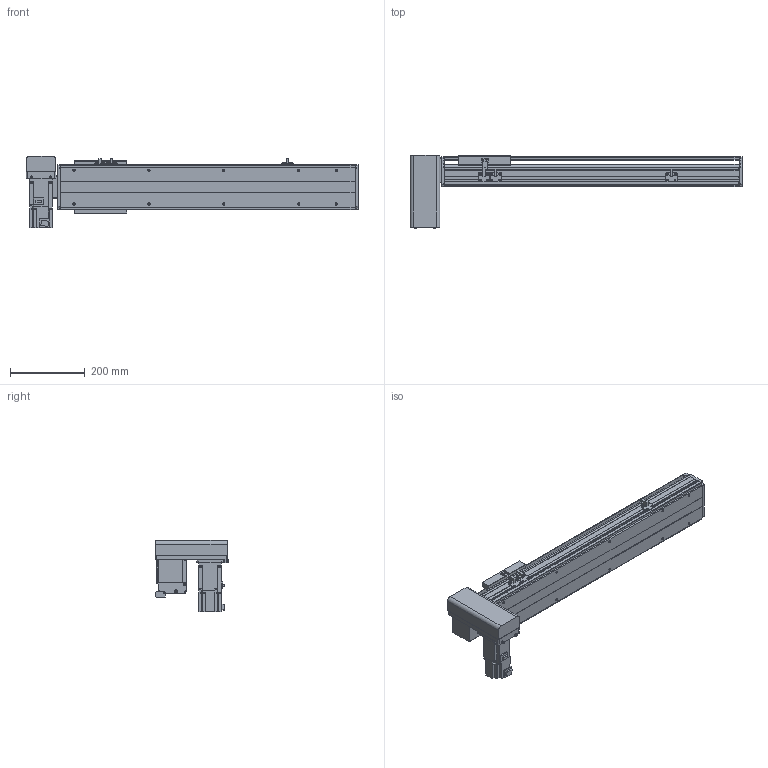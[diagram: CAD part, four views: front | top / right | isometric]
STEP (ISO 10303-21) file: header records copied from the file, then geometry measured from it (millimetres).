
FILE_DESCRIPTION( ( 'STEP AP214' ), '1' );
FILE_NAME( 'x:/temp/worker_27/temp/exporttempdir_6708_177_byTnG/format_0/PBS120-P40-S500-RD-T40-C1-N(0).stp', '2022-06-06T00:40:51', ( 'License CC BY-ND 4.0' ), ( 'CADENAS' ), ' ', 'PARTsolutions', ' ' );
FILE_SCHEMA( ( 'AUTOMOTIVE_DESIGN { 1 0 10303 214 1 1 1 1 }' ) );
Length unit declared in the file: millimetre
Products named in the file (7): PBS120-P40-S500-RD-T40-C1-N(0); _PBS120-S500()_body; _PBS120T-RD_motors; _T40-p1; _PBS120_sliser; _PBS120_plant; _PBS120_sensor
Assembly tree (8 placements, depth 2):
  PBS120-P40-S500-RD-T40-C1-N(0)
    _PBS120-S500()_body
    _PBS120T-RD_motors
    _T40-p1
    _PBS120_sliser
    _PBS120_plant
    _PBS120_sensor  x3
Bounding box: 886 x 196 x 189.7 mm (x, y, z)
Volume: 4333714.7 mm3; surface area: 804739.1 mm2
Topology: 8 solids, 8 shells, 810 faces, 2126 edges, 1369 vertices
Faces by surface type: plane 543, cylinder 223, cone 42, torus 2
Full cylindrical faces by diameter (mm): 2.459 x6, 3.242 x4, 4 x2, 4.134 x4, 4.5 x10, 4.917 x14, 5.5 x11, 6 x2, 6.6 x1, 7 x2, 8.5 x4, 9 x4, 12 x1, 14 x1, 30 x2, 40 x1, 50 x2
Entity records: 26820 total; most frequent: DIRECTION 3668, CARTESIAN_POINT 3623, ORIENTED_EDGE 3466, EDGE_CURVE 1733, LINE 1228, VECTOR 1228, AXIS2_PLACEMENT_3D 1220, VERTEX_POINT 1175
